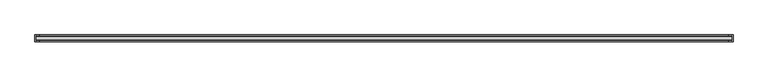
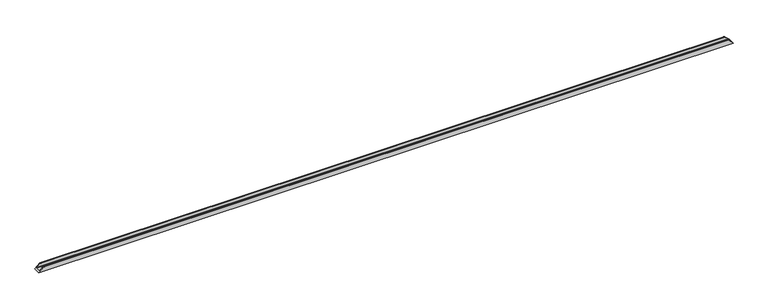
"""IFC4 building model written with IfcOpenShell, lengths in millimetres: proxy geometry, Weiku - Montante - Caixilho único 02.3.02.403 : Weiku - Montante - Caixilho único 02.3.02.403."""

from ifc_helpers import new_model, si_unit, frame, origin, place, context, project, spatial, ellipse_curve, source, transform, mapped, element, save
from ifc_brep_helpers import plane_surface, cylinder_surface, advanced_brep


def generic_models_684fa53a(model_context):
    return source(origin(), model_context, "Body", "AdvancedBrep", [
        advanced_brep(
        [(-4038.2, 9.8, 18.2), (-4000.5, 9.8, 55.9), (4000.5, 9.8, 55.9), (4038.2, 9.8, 18.2), (-4040.7000079, 63.85, 15.6999921), (-4040.7000079, 15.05, 15.6999921), (4040.7000079, 15.05, 15.6999921), (4040.7000079, 63.85, 15.6999921), (-4056.4, 78.9, 0.0), (4056.4, 78.9, 0.0), (4056.4, 0.0, 0.0), (-4056.4, 0.0, 0.0), (4000.5, 0.0, 55.9), (-4000.5, 0.0, 55.9), (-4000.0, 9.3, 56.4), (-4000.0, 0.5, 56.4), (4000.0, 0.5, 56.4), (4000.0, 9.3, 56.4), (-4038.2, 15.05, 18.2), (4038.2, 15.05, 18.2), (-4038.2, 63.85, 18.2), (4038.2, 63.85, 18.2), (-4038.2, 69.1, 18.2), (4038.2, 69.1, 18.2), (-4000.5, 69.1, 55.9), (4000.5, 69.1, 55.9), (-4000.0, 78.4, 56.4), (-4000.0, 69.6, 56.4), (4000.0, 69.6, 56.4), (4000.0, 78.4, 56.4), (-4000.5, 78.9, 55.9), (4000.5, 78.9, 55.9)],
        [
            (0, 1),
            (1, 2),
            (2, 3),
            (3, 0),
            (4, 5),
            (5, 6),
            (6, 7),
            (7, 4),
            (8, 9),
            (9, 10),
            (10, 11),
            (11, 8),
            (10, 12),
            (12, 13),
            (13, 11),
            (14, 15),
            (15, 16),
            (16, 17),
            (17, 14),
            (18, 0),
            (3, 19),
            (19, 18),
            (5, 18),
            (19, 6),
            (15, 13, ellipse_curve(frame((-4000.5, 0.5, 55.9), z_axis=(0.7071067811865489, 0.0, -0.7071067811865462), x_axis=(-0.707106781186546, 0.0, -0.7071067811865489)), 0.7071068, 0.5)),
            (12, 16, ellipse_curve(frame((4000.5, 0.5, 55.9), z_axis=(-0.7071067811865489, 0.0, -0.7071067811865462), x_axis=(-0.707106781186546, 0.0, 0.7071067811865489)), 0.7071068, 0.5)),
            (20, 4),
            (7, 21),
            (21, 20),
            (22, 20),
            (21, 23),
            (23, 22),
            (24, 22),
            (23, 25),
            (25, 24),
            (26, 27),
            (27, 28),
            (28, 29),
            (29, 26),
            (30, 26, ellipse_curve(frame((-4000.5, 78.4, 55.9), z_axis=(0.7071067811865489, 0.0, -0.7071067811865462), x_axis=(-0.707106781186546, 0.0, -0.7071067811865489)), 0.7071068, 0.5)),
            (29, 31, ellipse_curve(frame((4000.5, 78.4, 55.9), z_axis=(-0.7071067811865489, 0.0, -0.7071067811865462), x_axis=(-0.707106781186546, 0.0, 0.7071067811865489)), 0.7071068, 0.5)),
            (31, 30),
            (8, 30),
            (31, 9),
            (1, 14, ellipse_curve(frame((-4000.5, 9.3, 55.9), z_axis=(0.7071067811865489, 0.0, -0.7071067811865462), x_axis=(-0.707106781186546, 0.0, -0.7071067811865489)), 0.7071068, 0.5)),
            (17, 2, ellipse_curve(frame((4000.5, 9.3, 55.9), z_axis=(-0.7071067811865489, 0.0, -0.7071067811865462), x_axis=(-0.707106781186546, 0.0, 0.7071067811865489)), 0.7071068, 0.5)),
            (27, 24, ellipse_curve(frame((-4000.5, 69.6, 55.9), z_axis=(0.7071067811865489, 0.0, -0.7071067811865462), x_axis=(-0.707106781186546, 0.0, -0.7071067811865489)), 0.7071068, 0.5)),
            (25, 28, ellipse_curve(frame((4000.5, 69.6, 55.9), z_axis=(-0.7071067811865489, 0.0, -0.7071067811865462), x_axis=(-0.707106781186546, 0.0, 0.7071067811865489)), 0.7071068, 0.5)),
        ],
        [
            plane_surface(frame((-4056.4, 9.8, 55.9), z_axis=(0.0, 1.0, 0.0), x_axis=(1.0, 0.0, 0.0))),
            plane_surface(frame((-4056.4, 15.05, 15.6999921), z_axis=(0.0, 0.0, 1.0), x_axis=(1.0, 0.0, 0.0))),
            plane_surface(frame((-4056.4, 78.9, 0.0), z_axis=(0.0, 0.0, -1.0), x_axis=(1.0, 0.0, 0.0))),
            plane_surface(frame((-4056.4, 0.0, 0.0), z_axis=(0.0, -1.0, 0.0), x_axis=(1.0, 0.0, 0.0))),
            plane_surface(frame((-4056.4, 0.5, 56.4), z_axis=(0.0, 0.0, 1.0), x_axis=(1.0, 0.0, 0.0))),
            plane_surface(frame((-4056.4, 9.8, 18.2), z_axis=(0.0, 0.0, 1.0), x_axis=(1.0, 0.0, 0.0))),
            plane_surface(frame((-4056.4, 15.05, 18.2), z_axis=(0.0, 1.0, 0.0), x_axis=(1.0, 0.0, 0.0))),
            cylinder_surface(frame((-4056.4, 0.5, 55.9), z_axis=(-1.0, 0.0, 0.0), x_axis=(0.0, 1.0, 0.0)), 0.5),
            plane_surface(frame((-4056.4, 63.85, 15.6999921), z_axis=(0.0, -1.0, 0.0), x_axis=(1.0, 0.0, 0.0))),
            plane_surface(frame((-4056.4, 63.85, 18.2), z_axis=(0.0, 0.0, 1.0), x_axis=(1.0, 0.0, 0.0))),
            plane_surface(frame((-4056.4, 69.1, 18.2), z_axis=(0.0, -1.0, 0.0), x_axis=(1.0, 0.0, 0.0))),
            plane_surface(frame((-4056.4, 69.6, 56.4), z_axis=(0.0, 0.0, 1.0), x_axis=(1.0, 0.0, 0.0))),
            cylinder_surface(frame((-4056.4, 78.4, 55.9), z_axis=(-1.0, 0.0, 0.0), x_axis=(0.0, -1.0, 0.0)), 0.5),
            plane_surface(frame((-4056.4, 78.9, 55.9), z_axis=(0.0, 1.0, 0.0), x_axis=(1.0, 0.0, 0.0))),
            cylinder_surface(frame((-4056.4, 9.3, 55.9), z_axis=(-1.0, 0.0, 0.0), x_axis=(0.0, 1.0, 0.0)), 0.5),
            cylinder_surface(frame((-4056.4, 69.6, 55.9), z_axis=(-1.0, 0.0, 0.0), x_axis=(0.0, 1.0, 0.0)), 0.5),
            plane_surface(frame((-4056.4, 0.0, 0.0), z_axis=(-0.7071067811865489, 0.0, 0.7071067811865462), x_axis=(0.0, 1.0, 0.0))),
            plane_surface(frame((3996.4, 0.0, 60.0), z_axis=(0.7071067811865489, 0.0, 0.7071067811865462), x_axis=(0.0, 1.0, 0.0))),
        ],
        [
            (0, [[1, 2, 3, 4]]),
            (1, [[5, 6, 7, 8]]),
            (2, [[9, 10, 11, 12]]),
            (3, [[-11, 13, 14, 15]]),
            (4, [[16, 17, 18, 19]]),
            (5, [[20, -4, 21, 22]]),
            (6, [[23, -22, 24, -6]]),
            (7, [[25, -14, 26, -17]]),
            (8, [[27, -8, 28, 29]]),
            (9, [[30, -29, 31, 32]]),
            (10, [[33, -32, 34, 35]]),
            (11, [[36, 37, 38, 39]]),
            (12, [[40, -39, 41, 42]]),
            (13, [[-9, 43, -42, 44]]),
            (14, [[45, -19, 46, -2]]),
            (15, [[47, -35, 48, -37]]),
            (16, [[-1, -20, -23, -5, -27, -30, -33, -47, -36, -40, -43, -12, -15, -25, -16, -45]]),
            (17, [[-3, -46, -18, -26, -13, -10, -44, -41, -38, -48, -34, -31, -28, -7, -24, -21]]),
        ],
    ),
    ])


if __name__ == "__main__":
    model = new_model("IFC4")
    model_context = context("Model", 3, world=origin())
    ifc_project = project(units=[si_unit("LENGTHUNIT", "METRE", prefix="MILLI")], contexts=[model_context])
    site = spatial("IfcSite", under=ifc_project)
    building = spatial("IfcBuilding", under=site)
    placement = place(None, origin())
    generic_models_shape = generic_models_684fa53a(model_context)
    element("IfcBuildingElementProxy", 1, Name="Weiku - Montante - Caixilho único 02.3.02.403 : Weiku - Montante - Caixilho único 02.3.02.403", ObjectType="Weiku - Montante - Caixilho único 02.3.02.403 : Weiku - Montante - Caixilho único 02.3.02.403", at=placement, inside=building, context=model_context, shape_type="MappedRepresentation", body=[
        mapped(generic_models_shape, transform((0.0, 0.0, 0.0), x_axis=(1.0, 0.0, 0.0), y_axis=(0.0, 1.0, 0.0), z_axis=(0.0, 0.0, 1.0))),
    ])
    save(model, "model.ifc")
